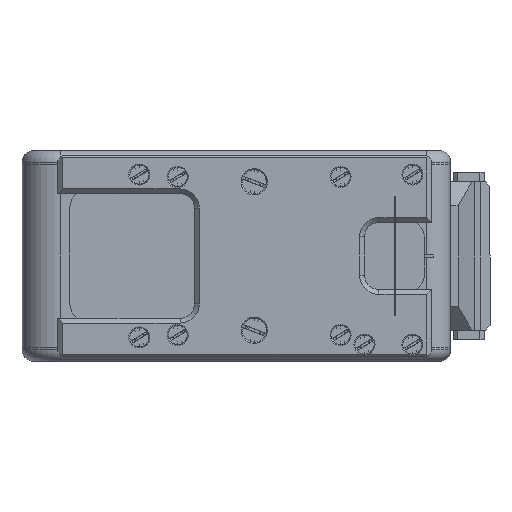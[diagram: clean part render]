
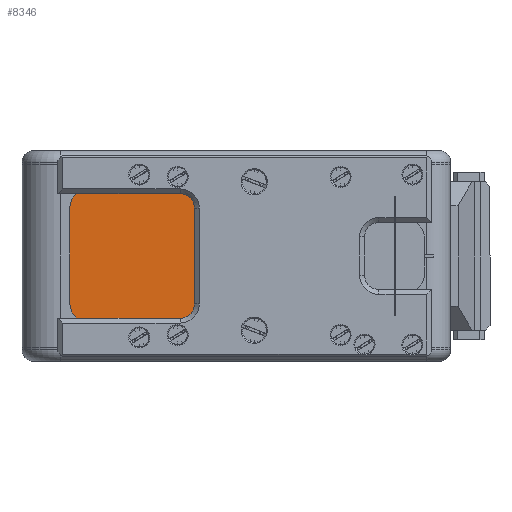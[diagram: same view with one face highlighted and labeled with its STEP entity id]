
A CAD part, left-side view. The second image highlights one B-rep face of the part: STEP entity #8346.
In plain terms, the highlighted planar face has unit normal (-1, 0, 0) as drawn and (0, 0, -1) by its records, which use the part's own axes.
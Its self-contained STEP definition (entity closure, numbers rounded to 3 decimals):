
#898 = CIRCLE ( 'NONE', #15848, 4. ) ;
#1685 = ORIENTED_EDGE ( 'NONE', *, *, #47332, .F. ) ;
#2248 = VERTEX_POINT ( 'NONE', #39064 ) ;
#2628 = CARTESIAN_POINT ( 'NONE',  ( 20.567, 5.921, 0. ) ) ;
#3545 = DIRECTION ( 'NONE',  ( -1., 0., 0. ) ) ;
#3682 = VERTEX_POINT ( 'NONE', #14498 ) ;
#4665 = CARTESIAN_POINT ( 'NONE',  ( 0.567, -17.079, 0. ) ) ;
#7901 = AXIS2_PLACEMENT_3D ( 'NONE', #24739, #32543, #24568 ) ;
#8295 = PLANE ( 'NONE',  #7901 ) ;
#8308 = CARTESIAN_POINT ( 'NONE',  ( 20.567, -13.079, 0. ) ) ;
#8346 = ADVANCED_FACE ( 'NONE', ( #47258 ), #8295, .F. ) ;
#12270 = CARTESIAN_POINT ( 'NONE',  ( 24.567, 5.921, 0. ) ) ;
#13172 = CARTESIAN_POINT ( 'NONE',  ( -3.433, 5.921, 0. ) ) ;
#13185 = ORIENTED_EDGE ( 'NONE', *, *, #44827, .F. ) ;
#13405 = ORIENTED_EDGE ( 'NONE', *, *, #18689, .F. ) ;
#13442 = EDGE_CURVE ( 'NONE', #2248, #44301, #898, .T. ) ;
#13565 = CARTESIAN_POINT ( 'NONE',  ( 20.567, 9.921, 0. ) ) ;
#14498 = CARTESIAN_POINT ( 'NONE',  ( 0.567, 9.921, 0. ) ) ;
#14560 = VECTOR ( 'NONE', #40681, 1000. ) ;
#15565 = CIRCLE ( 'NONE', #22719, 4. ) ;
#15848 = AXIS2_PLACEMENT_3D ( 'NONE', #47287, #39004, #23263 ) ;
#18331 = VECTOR ( 'NONE', #51261, 1000. ) ;
#18689 = EDGE_CURVE ( 'NONE', #32924, #3682, #44738, .T. ) ;
#18964 = EDGE_LOOP ( 'NONE', ( #50073, #22337, #44020, #13405, #36114, #13185, #41492, #1685 ) ) ;
#19082 = CARTESIAN_POINT ( 'NONE',  ( 0.567, -17.079, 0. ) ) ;
#19906 = DIRECTION ( 'NONE',  ( 1., 0., 0. ) ) ;
#20398 = DIRECTION ( 'NONE',  ( 0., 1., 0. ) ) ;
#20872 = CARTESIAN_POINT ( 'NONE',  ( 24.567, -13.079, 0. ) ) ;
#21450 = DIRECTION ( 'NONE',  ( 1., 0., 0. ) ) ;
#21844 = VERTEX_POINT ( 'NONE', #20872 ) ;
#22337 = ORIENTED_EDGE ( 'NONE', *, *, #48235, .F. ) ;
#22719 = AXIS2_PLACEMENT_3D ( 'NONE', #29878, #45634, #21450 ) ;
#23263 = DIRECTION ( 'NONE',  ( 1., 0., 0. ) ) ;
#24231 = DIRECTION ( 'NONE',  ( 0., 0., 1. ) ) ;
#24568 = DIRECTION ( 'NONE',  ( 1., 0., 0. ) ) ;
#24739 = CARTESIAN_POINT ( 'NONE',  ( 0.567, -13.079, 0. ) ) ;
#25091 = LINE ( 'NONE', #36721, #14560 ) ;
#26025 = DIRECTION ( 'NONE',  ( 0., 0., 1. ) ) ;
#26771 = CARTESIAN_POINT ( 'NONE',  ( 0.567, 9.921, 0. ) ) ;
#27024 = VERTEX_POINT ( 'NONE', #43750 ) ;
#27353 = CIRCLE ( 'NONE', #44613, 4. ) ;
#29878 = CARTESIAN_POINT ( 'NONE',  ( 0.567, 5.921, 0. ) ) ;
#32543 = DIRECTION ( 'NONE',  ( 0., 0., 1. ) ) ;
#32924 = VERTEX_POINT ( 'NONE', #13565 ) ;
#33216 = CIRCLE ( 'NONE', #47442, 4. ) ;
#34552 = DIRECTION ( 'NONE',  ( -1., 0., 0. ) ) ;
#35278 = EDGE_CURVE ( 'NONE', #45086, #21844, #33216, .T. ) ;
#36114 = ORIENTED_EDGE ( 'NONE', *, *, #50095, .F. ) ;
#36721 = CARTESIAN_POINT ( 'NONE',  ( -3.433, 5.921, 0. ) ) ;
#36947 = LINE ( 'NONE', #19082, #18331 ) ;
#39004 = DIRECTION ( 'NONE',  ( 0., 0., 1. ) ) ;
#39064 = CARTESIAN_POINT ( 'NONE',  ( -3.433, -13.079, 0. ) ) ;
#40681 = DIRECTION ( 'NONE',  ( 0., -1., 0. ) ) ;
#41059 = EDGE_CURVE ( 'NONE', #3682, #44502, #15565, .T. ) ;
#41492 = ORIENTED_EDGE ( 'NONE', *, *, #35278, .F. ) ;
#42451 = LINE ( 'NONE', #12270, #44851 ) ;
#43361 = CARTESIAN_POINT ( 'NONE',  ( 20.567, -17.079, 0. ) ) ;
#43750 = CARTESIAN_POINT ( 'NONE',  ( 24.567, 5.921, 0. ) ) ;
#44020 = ORIENTED_EDGE ( 'NONE', *, *, #41059, .F. ) ;
#44301 = VERTEX_POINT ( 'NONE', #4665 ) ;
#44502 = VERTEX_POINT ( 'NONE', #13172 ) ;
#44613 = AXIS2_PLACEMENT_3D ( 'NONE', #2628, #26025, #34552 ) ;
#44738 = LINE ( 'NONE', #26771, #50302 ) ;
#44827 = EDGE_CURVE ( 'NONE', #21844, #27024, #42451, .T. ) ;
#44851 = VECTOR ( 'NONE', #20398, 1000. ) ;
#45086 = VERTEX_POINT ( 'NONE', #43361 ) ;
#45634 = DIRECTION ( 'NONE',  ( 0., 0., 1. ) ) ;
#47258 = FACE_OUTER_BOUND ( 'NONE', #18964, .T. ) ;
#47287 = CARTESIAN_POINT ( 'NONE',  ( 0.567, -13.079, 0. ) ) ;
#47332 = EDGE_CURVE ( 'NONE', #44301, #45086, #36947, .T. ) ;
#47442 = AXIS2_PLACEMENT_3D ( 'NONE', #8308, #24231, #19906 ) ;
#48235 = EDGE_CURVE ( 'NONE', #44502, #2248, #25091, .T. ) ;
#50073 = ORIENTED_EDGE ( 'NONE', *, *, #13442, .F. ) ;
#50095 = EDGE_CURVE ( 'NONE', #27024, #32924, #27353, .T. ) ;
#50302 = VECTOR ( 'NONE', #3545, 1000. ) ;
#51261 = DIRECTION ( 'NONE',  ( 1., 0., 0. ) ) ;
